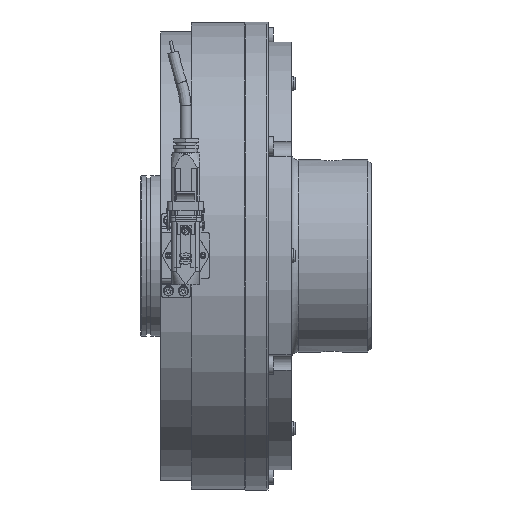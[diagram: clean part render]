
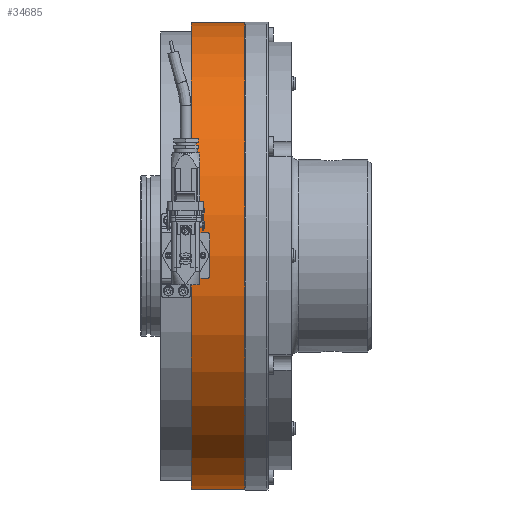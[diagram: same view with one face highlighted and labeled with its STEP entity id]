
A CAD part, top view. The second image highlights one B-rep face of the part: STEP entity #34685.
In plain terms, the highlighted cylindrical face has radius 204 mm (diameter 408 mm), a full revolution.
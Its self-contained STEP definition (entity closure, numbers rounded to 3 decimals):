
#3246=FACE_OUTER_BOUND('',#5254,.T.);
#5254=EDGE_LOOP('',(#28860,#28861,#28862,#28863,#28864,#28865));
#6790=CIRCLE('',#37519,204.);
#6791=CIRCLE('',#37520,204.);
#6820=CIRCLE('',#37559,204.);
#6821=CIRCLE('',#37560,204.);
#9942=LINE('',#57550,#12763);
#12763=VECTOR('',#46027,204.);
#15641=VERTEX_POINT('',#57470);
#15642=VERTEX_POINT('',#57471);
#15671=VERTEX_POINT('',#57545);
#15672=VERTEX_POINT('',#57546);
#20173=EDGE_CURVE('',#15641,#15642,#6790,.T.);
#20174=EDGE_CURVE('',#15642,#15641,#6791,.T.);
#20208=EDGE_CURVE('',#15671,#15672,#6820,.T.);
#20209=EDGE_CURVE('',#15672,#15671,#6821,.T.);
#20210=EDGE_CURVE('',#15642,#15672,#9942,.T.);
#28860=ORIENTED_EDGE('',*,*,#20173,.F.);
#28861=ORIENTED_EDGE('',*,*,#20174,.F.);
#28862=ORIENTED_EDGE('',*,*,#20210,.T.);
#28863=ORIENTED_EDGE('',*,*,#20209,.T.);
#28864=ORIENTED_EDGE('',*,*,#20208,.T.);
#28865=ORIENTED_EDGE('',*,*,#20210,.F.);
#31403=CYLINDRICAL_SURFACE('',#37561,204.);
#34685=ADVANCED_FACE('',(#3246),#31403,.T.);
#37519=AXIS2_PLACEMENT_3D('',#57472,#45936,#45937);
#37520=AXIS2_PLACEMENT_3D('',#57473,#45938,#45939);
#37559=AXIS2_PLACEMENT_3D('',#57547,#46021,#46022);
#37560=AXIS2_PLACEMENT_3D('',#57548,#46023,#46024);
#37561=AXIS2_PLACEMENT_3D('',#57549,#46025,#46026);
#45936=DIRECTION('center_axis',(1.,0.,0.));
#45937=DIRECTION('ref_axis',(0.,0.,
-1.));
#45938=DIRECTION('center_axis',(1.,0.,0.));
#45939=DIRECTION('ref_axis',(0.,0.,
-1.));
#46021=DIRECTION('center_axis',(1.,0.,0.));
#46022=DIRECTION('ref_axis',(0.,0.,
-1.));
#46023=DIRECTION('center_axis',(1.,0.,0.));
#46024=DIRECTION('ref_axis',(0.,0.,
-1.));
#46025=DIRECTION('center_axis',(1.,0.,0.));
#46026=DIRECTION('ref_axis',(0.,0.,
-1.));
#46027=DIRECTION('',(-1.,0.,0.));
#57470=CARTESIAN_POINT('',(47.85,0.,-204.));
#57471=CARTESIAN_POINT('',(47.85,0.,204.));
#57472=CARTESIAN_POINT('Origin',(47.85,0.,
0.));
#57473=CARTESIAN_POINT('Origin',(47.85,0.,
0.));
#57545=CARTESIAN_POINT('',(1.15,0.,-204.));
#57546=CARTESIAN_POINT('',(1.15,0.,204.));
#57547=CARTESIAN_POINT('Origin',(1.15,0.,
0.));
#57548=CARTESIAN_POINT('Origin',(1.15,0.,
0.));
#57549=CARTESIAN_POINT('Origin',(24.5,0.,
0.));
#57550=CARTESIAN_POINT('',(24.5,0.,204.));
